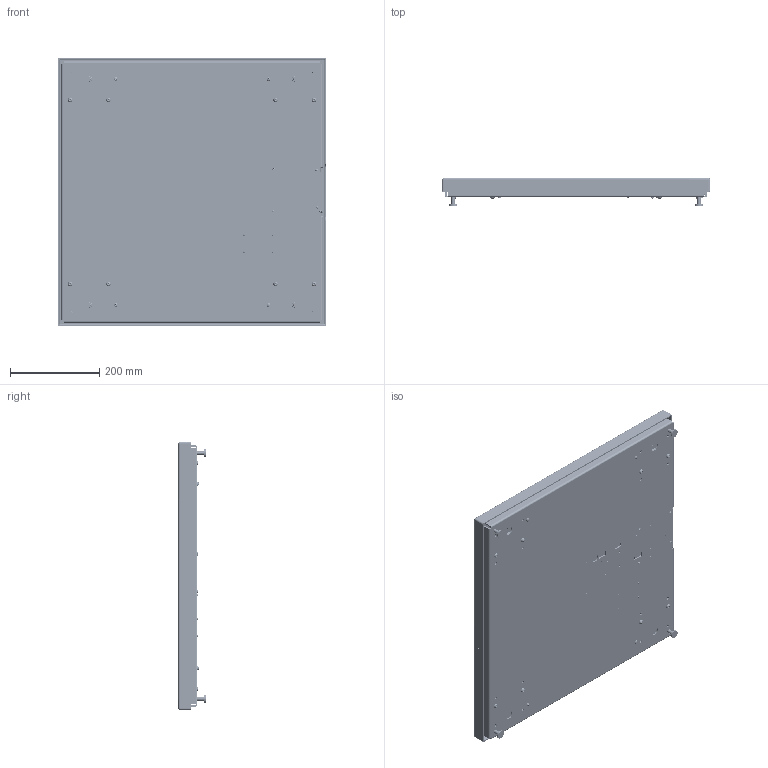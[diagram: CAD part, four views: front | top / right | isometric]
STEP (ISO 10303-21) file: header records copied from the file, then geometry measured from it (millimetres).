
FILE_DESCRIPTION (( 'STEP AP214' ), '1' );
FILE_NAME ('E-SCALE-6610-2424-330.STEP', '2019-08-29T22:34:52', ( '' ), ( '' ), 'SwSTEP 2.0', 'SolidWorks 2017', '' );
FILE_SCHEMA (( 'AUTOMOTIVE_DESIGN' ));
Length unit declared in the file: millimetre
Products named in the file (56): 0078239; 0075230_91780A198; flat washer type a selected narrow_ai_Selected Narrow FW 0.125; Phoenix_1803646; 0075309; 2815-0168-0_91780A534; socket button head cap screw_am_B18.3.4M - 6 x 1.0 x 20 SBHCS --N-A2.70; 0074915_Modified By Hardy_Default<As Machined>; 5126-0009-0; 0075172_A3, A4 & A5; 0075232_80-001903; 2814-T011_90631A005; 0067075; Amphenol_RJHSE-5080-02-REVT1; 2140-0144-09-0; 0074904; 0075233; 0074879; 0514-0242-01-0_Rev A; 0074757_Modified By Hardy; Bivar Spacer_TO-201-040; 0075175_84-227975; 2143-T004; 0074880; 0075294; E-SCALE-6610-2424-330; 0075293; 0075295; flat head screw_ai_CR-FHMS 0.164-32x0.875x0.875-N-A2.70; 0075174_5; 0075173_B5; Chassis fastener Winchester Electronics A1591B; 0075198; lock washer spring regular_ai_Regular LW 0.112; 0075231_PBSH-150kg 600 X 600; 0074918; 2815-0169-0_91780A521; pan cross head_ai_CR-PHMS 0.164-32x0.3125x0.3125-N-A2.70; 0535-0567-02-0 WO Ethernet Port; pan cross head_ai_CR-PHMS 0.112-40x0.5x0.5-N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
Assembly tree (117 placements, depth 4):
  E-SCALE-6610-2424-330
    0074904
      0074915_Modified By Hardy_Default<As Machined>
      0074918  x4
      0078239
    0075309
    0075175_84-227975  x4
      0075172_A3, A4 & A5
      0075174_5
      0075173_B5
    hex jam nut_ai_HJNUT 0.2500-20-D-N  x4
    0074757_Modified By Hardy
    0075198  x4
    0075200_93505A451  x4
    0075290
      0075233
      0018546  x4
      0075287_C2 CHIP
      0075295  x4
        0075294
        0075293
    pan cross head_ai_CR-PHMS 0.164-32x0.3125x0.3125-N-A2.70  x4
    0074880  x4
      0074872
      0074879
      0067075
      socket head cap screw_am_B18.3.1M - 6 x 1.0 x 20 Hex SHCS -- 20NHX-A2.70
    0075231_PBSH-150kg 600 X 600  x4
      0075230_91780A198
      0075232_80-001903
      flat head screw_ai_CR-FHMS 0.164-32x0.875x0.875-N-A2.70
      pan cross head_ai_CR-PHMS 0.164-32x0.3125x0.3125-N-A2.70
    socket button head cap screw_am_B18.3.4M - 6 x 1.0 x 20 SBHCS --N-A2.70  x8
    2814-0098-0_90633A007  x2
    2143-T004
    2143-T013
    flat washer type a selected narrow_ai_Selected Narrow FW 0.125  x5
    2814-T011_90631A005
    0514-0242-01-0_Rev A
    2817-0272-0_90402A146
    0535-0567-02-0 WO Ethernet Port
      6610 Bare Board
      Chassis fastener Winchester Electronics A1591B  x2
      red_green_LED
      5126-0009-0
      Amphenol_RJHSE-5080-02-REVT1
      2140-0144-09-0
        mcv_1.5-9-g-3.81_1
      Phoenix_1803646
      Bivar Spacer_TO-201-040  x4
    pan cross head_ai_CR-PHMS 0.112-40x0.5x0.5-N  x4
    2815-0169-0_91780A521  x7
    2815-0168-0_91780A534
    lock washer spring regular_ai_Regular LW 0.112  x4
    0530-0853-01-0
    0530-0856-01-0
    0530-0854-XX-0
Bounding box: 600.13 x 61.68 x 600 mm (x, y, z)
Volume: 2815797.5 mm3; surface area: 1911541.4 mm2
Topology: 671 solids, 674 shells, 17770 faces, 45699 edges, 29749 vertices
Faces by surface type: plane 9171, bspline 5056, cylinder 2439, cone 916, torus 142, sphere 46
Entity records: 614231 total; most frequent: CARTESIAN_POINT 169294, ORIENTED_EDGE 74608, DIRECTION 47706, EDGE_CURVE 37309, VERTEX_POINT 24571, VECTOR 23194, LINE 23194, EDGE_LOOP 15304
